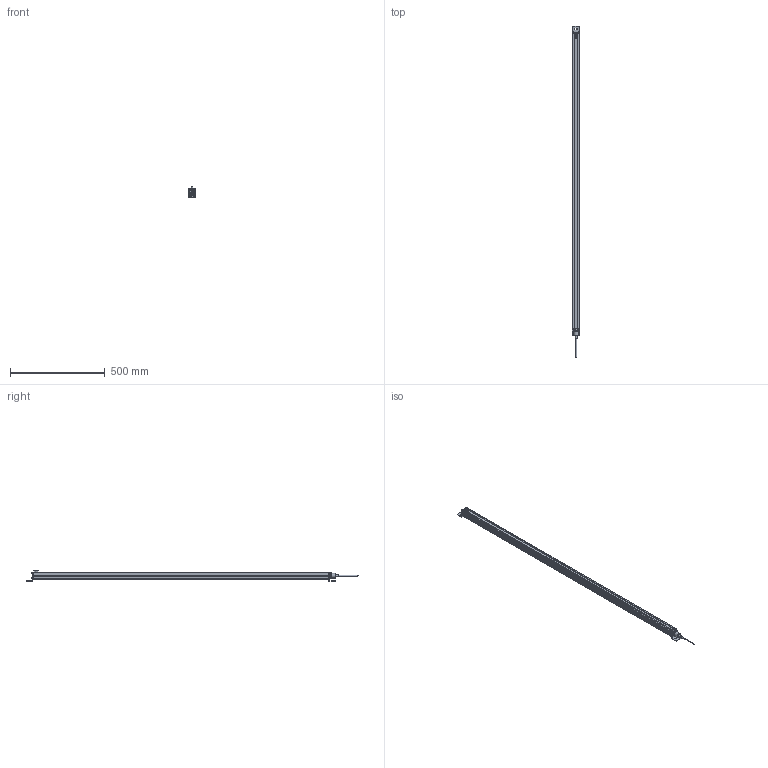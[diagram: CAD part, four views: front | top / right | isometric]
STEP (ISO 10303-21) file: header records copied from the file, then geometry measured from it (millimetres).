
FILE_DESCRIPTION(/* description */ (''),/* implementation_level */ '2;1');
FILE_NAME(/* name */ 'C:\ACADFILES\MG_PYLONS\IGES\MG-60-PYLON_3D_L.stp',/* time_stamp */ '2018-06-15T10:27:41-05:00',/* author */ ('ENGINEERMAIN'),/* organization */ ('unknown'),/* preprocessor_version */ 'ST-DEVELOPER v17',/* originating_system */ 'Autodesk Inventor 2018',/* authorisation */ '');
FILE_SCHEMA (('CONFIG_CONTROL_DESIGN'));
Length unit declared in the file: inch
Products named in the file (1): MG-60-PYLON_3D_L
Bounding box: 37.1 x 1748.8 x 53.51 mm (x, y, z)
Volume: 591443.8 mm3; surface area: 592004.4 mm2
Topology: 25 solids, 26 shells, 625 faces, 1447 edges, 889 vertices
Faces by surface type: plane 476, cylinder 65, cone 60, bspline 12, torus 12
Full cylindrical faces by diameter (mm): 2.845 x12, 2.886 x2, 2.895 x4, 3.045 x8, 3.047 x4, 3.067 x1, 3.969 x1, 5.563 x12, 7.443 x3, 9.741 x1, 24.181 x1, 25.343 x1, 26.649 x1, 27.94 x2, 31.929 x1
Entity records: 17931 total; most frequent: CARTESIAN_POINT 3868, ORIENTED_EDGE 2892, DIRECTION 2836, EDGE_CURVE 1447, AXIS2_PLACEMENT_3D 988, VERTEX_POINT 889, LINE 860, VECTOR 860
